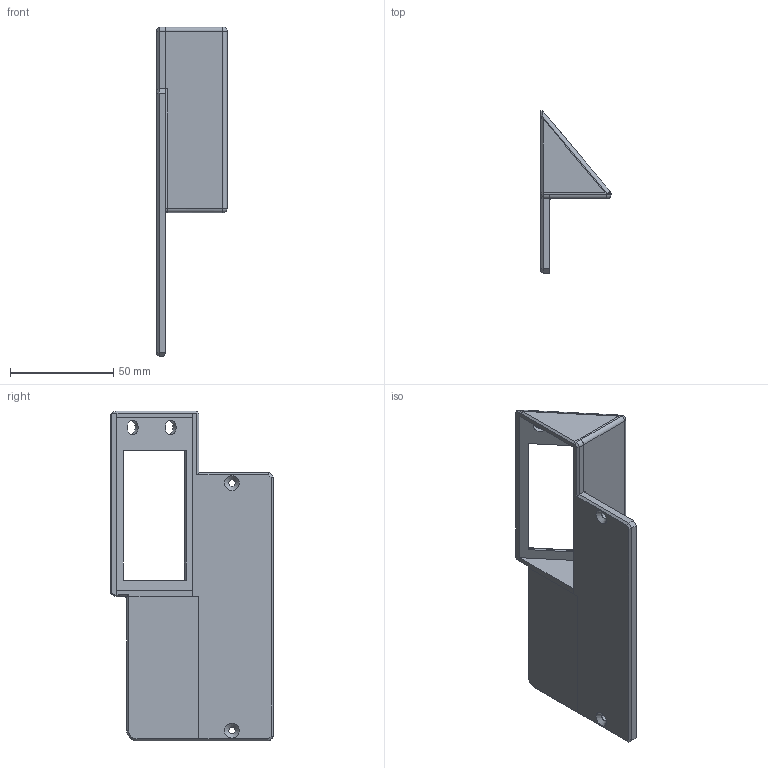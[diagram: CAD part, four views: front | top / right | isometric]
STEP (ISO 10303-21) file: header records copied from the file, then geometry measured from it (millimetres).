
FILE_DESCRIPTION(('FreeCAD Model'),'2;1');
FILE_NAME('Open CASCADE Shape Model','2026-04-25T03:49:43',(''),(''), 'Open CASCADE STEP processor 7.6','FreeCAD','Unknown');
FILE_SCHEMA(('AUTOMOTIVE_DESIGN { 1 0 10303 214 1 1 1 1 }'));
Length unit declared in the file: millimetre
Products named in the file (1): Fillet005
Bounding box: 34 x 78.75 x 160 mm (x, y, z)
Volume: 44877.4 mm3; surface area: 27945.1 mm2
Topology: 1 solids, 1 shells, 92 faces, 218 edges, 123 vertices
Faces by surface type: plane 46, cylinder 26, bspline 10, torus 4, cone 4, sphere 2
Full cylindrical faces by diameter (mm): 3.2 x2, 7 x2
Entity records: 2850 total; most frequent: CARTESIAN_POINT 803, ORIENTED_EDGE 428, DIRECTION 401, EDGE_CURVE 214, LINE 135, VECTOR 135, AXIS2_PLACEMENT_3D 133, VERTEX_POINT 123
